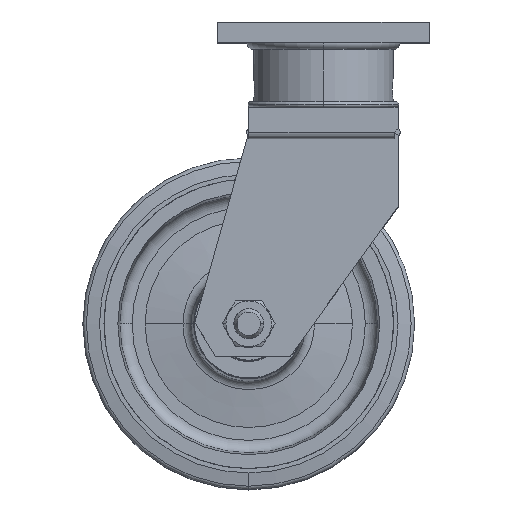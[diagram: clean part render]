
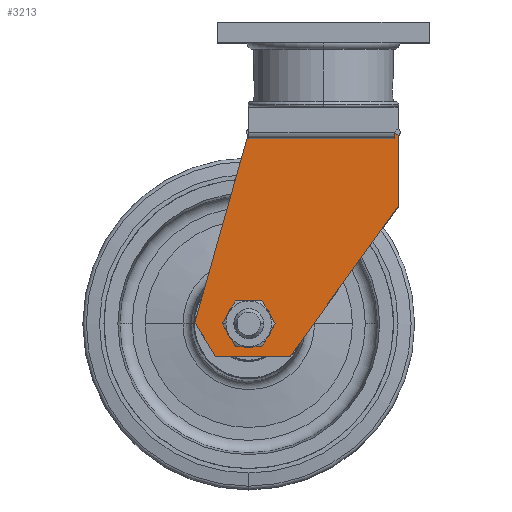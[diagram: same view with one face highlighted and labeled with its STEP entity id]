
A CAD part, top view. The second image highlights one B-rep face of the part: STEP entity #3213.
In plain terms, the highlighted planar face has unit normal (0, 0, 1).
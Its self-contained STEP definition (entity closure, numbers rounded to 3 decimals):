
#3037 = EDGE_CURVE ( 'NONE', #3133, #3038, #6556, .T. ) ;
#3038 = VERTEX_POINT ( 'NONE', #6552 ) ;
#3045 = EDGE_CURVE ( 'NONE', #3060, #3142, #6542, .T. ) ;
#3049 = ORIENTED_EDGE ( 'NONE', *, *, #3045, .F. ) ;
#3050 = ORIENTED_EDGE ( 'NONE', *, *, #3056, .F. ) ;
#3051 = ORIENTED_EDGE ( 'NONE', *, *, #3037, .F. ) ;
#3052 = ORIENTED_EDGE ( 'NONE', *, *, #3132, .F. ) ;
#3053 = ORIENTED_EDGE ( 'NONE', *, *, #3144, .F. ) ;
#3055 = ORIENTED_EDGE ( 'NONE', *, *, #3140, .F. ) ;
#3056 = EDGE_CURVE ( 'NONE', #3220, #3062, #6585, .T. ) ;
#3057 = VERTEX_POINT ( 'NONE', #6577 ) ;
#3058 = EDGE_CURVE ( 'NONE', #3057, #3211, #6576, .T. ) ;
#3059 = ORIENTED_EDGE ( 'NONE', *, *, #3061, .T. ) ;
#3060 = VERTEX_POINT ( 'NONE', #6571 ) ;
#3061 = EDGE_CURVE ( 'NONE', #3060, #3062, #6570, .T. ) ;
#3062 = VERTEX_POINT ( 'NONE', #6566 ) ;
#3063 = ORIENTED_EDGE ( 'NONE', *, *, #3058, .T. ) ;
#3132 = EDGE_CURVE ( 'NONE', #3145, #3133, #6913, .T. ) ;
#3133 = VERTEX_POINT ( 'NONE', #6909 ) ;
#3140 = EDGE_CURVE ( 'NONE', #3038, #3220, #6897, .T. ) ;
#3142 = VERTEX_POINT ( 'NONE', #6887 ) ;
#3144 = EDGE_CURVE ( 'NONE', #3142, #3145, #6886, .T. ) ;
#3145 = VERTEX_POINT ( 'NONE', #6882 ) ;
#3208 = EDGE_LOOP ( 'NONE', ( #3059, #3050, #3055, #3051, #3052, #3053, #3049 ) ) ;
#3209 = ORIENTED_EDGE ( 'NONE', *, *, #3210, .T. ) ;
#3210 = EDGE_CURVE ( 'NONE', #3211, #3057, #6779, .T. ) ;
#3211 = VERTEX_POINT ( 'NONE', #6834 ) ;
#3212 = EDGE_LOOP ( 'NONE', ( #3209, #3063 ) ) ;
#3213 = ADVANCED_FACE ( 'NONE', ( #6833, #6832 ), #6831, .T. ) ;
#3220 = VERTEX_POINT ( 'NONE', #6821 ) ;
#6539 = DIRECTION ( 'NONE',  ( 0., -1., 0. ) ) ;
#6540 = VECTOR ( 'NONE', #6539, 1000. ) ;
#6541 = CARTESIAN_POINT ( 'NONE',  ( 180., 141., 162. ) ) ;
#6542 = LINE ( 'NONE', #6541, #6540 ) ;
#6552 = CARTESIAN_POINT ( 'NONE',  ( -65., 1., 162. ) ) ;
#6553 = DIRECTION ( 'NONE',  ( -0.53, 0.848, 0. ) ) ;
#6554 = VECTOR ( 'NONE', #6553, 1000. ) ;
#6555 = CARTESIAN_POINT ( 'NONE',  ( -65., 1., 162. ) ) ;
#6556 = LINE ( 'NONE', #6555, #6554 ) ;
#6566 = CARTESIAN_POINT ( 'NONE',  ( 176., 231., 162. ) ) ;
#6567 = DIRECTION ( 'NONE',  ( -0.707, 0.707, 0. ) ) ;
#6568 = VECTOR ( 'NONE', #6567, 1000. ) ;
#6569 = CARTESIAN_POINT ( 'NONE',  ( 178., 229., 162. ) ) ;
#6570 = LINE ( 'NONE', #6569, #6568 ) ;
#6571 = CARTESIAN_POINT ( 'NONE',  ( 180., 227., 162. ) ) ;
#6572 = DIRECTION ( 'NONE',  ( -1., 0., 0. ) ) ;
#6573 = DIRECTION ( 'NONE',  ( 0., 0., -1. ) ) ;
#6574 = CARTESIAN_POINT ( 'NONE',  ( 0., 0., 162. ) ) ;
#6575 = AXIS2_PLACEMENT_3D ( 'NONE', #6574, #6573, #6572 ) ;
#6576 = CIRCLE ( 'NONE', #6575, 18.25 ) ;
#6577 = CARTESIAN_POINT ( 'NONE',  ( 18.25, 0., 162. ) ) ;
#6578 = DIRECTION ( 'NONE',  ( 1., 0., 0. ) ) ;
#6579 = VECTOR ( 'NONE', #6578, 1000. ) ;
#6580 = CARTESIAN_POINT ( 'NONE',  ( 180., 231., 162. ) ) ;
#6585 = LINE ( 'NONE', #6580, #6579 ) ;
#6779 = CIRCLE ( 'NONE', #6838, 18.25 ) ;
#6821 = CARTESIAN_POINT ( 'NONE',  ( 0., 231., 162. ) ) ;
#6826 = DIRECTION ( 'NONE',  ( 1., 0., 0. ) ) ;
#6827 = DIRECTION ( 'NONE',  ( 0., 0., 1. ) ) ;
#6828 = CARTESIAN_POINT ( 'NONE',  ( -89.503, -66.003, 162. ) ) ;
#6829 = AXIS2_PLACEMENT_3D ( 'NONE', #6828, #6827, #6826 ) ;
#6831 = PLANE ( 'NONE',  #6829 ) ;
#6832 = FACE_OUTER_BOUND ( 'NONE', #3208, .T. ) ;
#6833 = FACE_BOUND ( 'NONE', #3212, .T. ) ;
#6834 = CARTESIAN_POINT ( 'NONE',  ( -18.25, 0., 162. ) ) ;
#6835 = DIRECTION ( 'NONE',  ( -1., 0., 0. ) ) ;
#6836 = DIRECTION ( 'NONE',  ( 0., 0., -1. ) ) ;
#6837 = CARTESIAN_POINT ( 'NONE',  ( 0., 0., 162. ) ) ;
#6838 = AXIS2_PLACEMENT_3D ( 'NONE', #6837, #6836, #6835 ) ;
#6882 = CARTESIAN_POINT ( 'NONE',  ( 50., -39., 162. ) ) ;
#6883 = DIRECTION ( 'NONE',  ( -0.585, -0.811, 0. ) ) ;
#6884 = VECTOR ( 'NONE', #6883, 1000. ) ;
#6885 = CARTESIAN_POINT ( 'NONE',  ( 50., -39., 162. ) ) ;
#6886 = LINE ( 'NONE', #6885, #6884 ) ;
#6887 = CARTESIAN_POINT ( 'NONE',  ( 180., 141., 162. ) ) ;
#6894 = DIRECTION ( 'NONE',  ( 0.272, 0.962, 0. ) ) ;
#6895 = VECTOR ( 'NONE', #6894, 1000. ) ;
#6896 = CARTESIAN_POINT ( 'NONE',  ( 0., 231., 162. ) ) ;
#6897 = LINE ( 'NONE', #6896, #6895 ) ;
#6909 = CARTESIAN_POINT ( 'NONE',  ( -40., -39., 162. ) ) ;
#6910 = DIRECTION ( 'NONE',  ( -1., 0., 0. ) ) ;
#6911 = VECTOR ( 'NONE', #6910, 1000. ) ;
#6912 = CARTESIAN_POINT ( 'NONE',  ( -40., -39., 162. ) ) ;
#6913 = LINE ( 'NONE', #6912, #6911 ) ;
